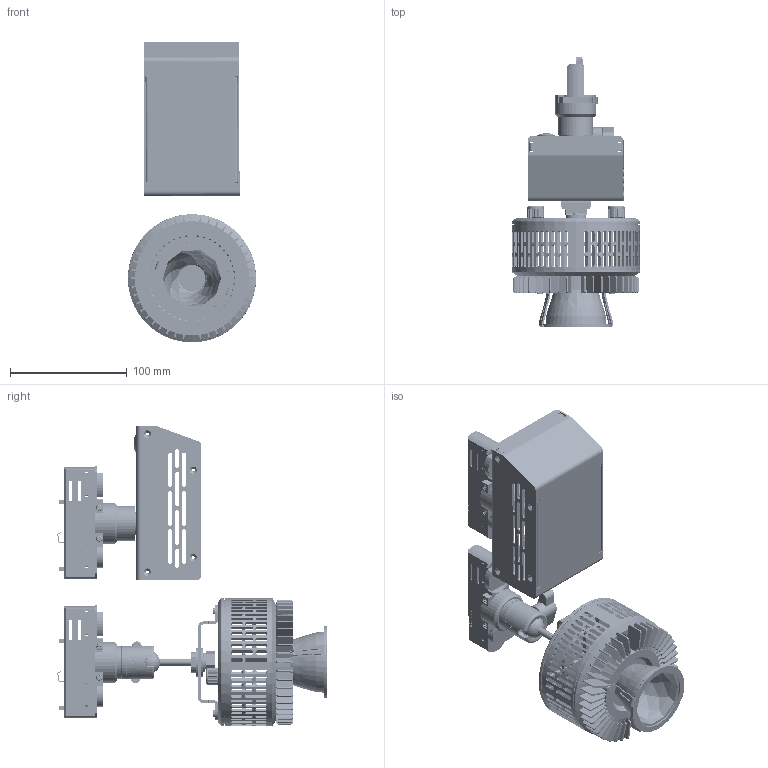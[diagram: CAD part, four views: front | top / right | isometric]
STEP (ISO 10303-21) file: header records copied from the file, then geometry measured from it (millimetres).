
FILE_DESCRIPTION (( 'STEP AP214' ), '1' );
FILE_NAME ('W360N-TEX-PS.STEP', '2024-01-31T00:52:01', ( '' ), ( '' ), 'SwSTEP 2.0', 'SolidWorks 2022', '' );
FILE_SCHEMA (( 'AUTOMOTIVE_DESIGN' ));
Length unit declared in the file: millimetre
Products named in the file (38): 5020757-002_A2_VR Washer, Kessil A360 Aquarium Light___; 5010176-XXX_A2_Assembly BOM, Kessil W360_35D-TSG; 5020897-2010216520_ _Helical Spring Washer Customized___; 5022398-XXX_A1_Plug for W Series, 19x10x9.4mm_For W360; 62282-5014005_ _Standard Types of Metric Set Screws, M4xL5, Black___; 5022014-XYZ_A2_EUTRAC Multi Adapter_Finissh_2(No Locked); 5021926-XXX_A2_KNOB, 18T, OD=14.9, ID=6, L=10MM_C1; 62432-11100100140040_ _Hex Nuts Customized, M10 P1.0 S14 T4 W-Zinc___; 5022445-XXX_A1_DC Plug for W Series, D=12mm_-002(Black); 5022452-003_A3_Reflector Sink Holder, D108x14.35(H)mm (-004 is White)_-003(Black); 5022708-XXX_A2_Ball Joint Axis, L=65.8mm___; 5120522-XXX_A3_Assembly BOM, W360&W500 Light Mounting Type_For W360_TSG; 62280-2163006_ _SCREW, FLAT HEAD TORX W-THD LOCK, SUS-304, BLACK, M3.0 x L6.0mm___; 5022431-XXX_A1_Ball Joint Part A, L=23.7mm___; W360N-TEX-PS; 5020757-001_A1_VR Nut, Kessil A360 Aquarium Light___; 5120533-XXX_A3_Housing, OD=110, ID=105, T=47.5mm, For Reflector___; 5022453-XXX_A1_35D Sink Holder B, 71.2x62.2x31.1(H)mm___; 5022534-XXX_A1_150W Power Box Cover, 132.5x79x54.5(H)mm, TG&TJ&CLP&TEX-PS Type_PS; 5022484-XXX_A1_Retaining Collar, M10xL10 P1.0, D30.0x31.1mm___; 5022693-XXX_A1_Bracket, 98.85x25x17.5, T=2.5mm___; 5120532-XXX_A1_Rear Panel, OD=110, T=8.3mm, W-Series_____; 5022405-XXX_A1_Wing Knob Screws, M6xL8.0mm_-001; 5060069-XXX_A2_W series Reflector-35, OD=62, H=45mm___; 62280-1363010_ _SCREW, M3x10mmL, PAN HEAD TORX WITH THREAD LOCK___; 5120526-XXX_A2_Assembly BOM, W360 Reflector Type_Reflector - 35D; 5021925_A1_PLATE, R=37.5, W=50, T=2MM___; 5022375-XXX_A4_150W Power Box Frame, 132.5x82x56(H)mm___; 5022516-00031_A1_Button Type Round Hole Plug for KANG YANG, Black___; 62280-5413010_ _SCREW, FLAT PAN HEAD, TORX W-THD LOCK, SUS-304, M3xL10mm___; 5020893-2010525020_ _Flat Washer, M10, ID10.5 OD25.0, T2 SUS 304___; 5021416_A1_Hex Nut, M10xP1.5, T8 SUS___; 5120521-XXX_A2_Assembly BOM, W360 Light Engine_Finish; 5020893-3211020005_ _Flat Washer Customized, Nylon Black, ID11mm OD20mm T0.5mm___; 5022399_A1_Fix Ball Joint Part for EUTRAC, D=28mm___; 5120511-XXX_A3_Assembly BOM, Power Box for W360_TOX-PS (2Circuits (9219-2S)); 5022430-XXX_A1_Ball Joint Part C (For TDE), L=18.9mm___; 62280-1343006_ _SCREW, PAN HEAD TROX W-THD LOCK, SUS-410, BLACK, M3xL6mm___
Assembly tree (47 placements, depth 4):
  W360N-TEX-PS
    5010176-XXX_A2_Assembly BOM, Kessil W360_35D-TSG
      5120521-XXX_A2_Assembly BOM, W360 Light Engine_Finish
        5120532-XXX_A1_Rear Panel, OD=110, T=8.3mm, W-Series_____
        5022445-XXX_A1_DC Plug for W Series, D=12mm_-002(Black)
        5022398-XXX_A1_Plug for W Series, 19x10x9.4mm_For W360
        62280-1363010_ _SCREW, M3x10mmL, PAN HEAD TORX WITH THREAD LOCK___  x2
        5020757-002_A2_VR Washer, Kessil A360 Aquarium Light___  x2
        5020757-001_A1_VR Nut, Kessil A360 Aquarium Light___  x2
        5021926-XXX_A2_KNOB, 18T, OD=14.9, ID=6, L=10MM_C1  x2
      5120526-XXX_A2_Assembly BOM, W360 Reflector Type_Reflector - 35D
        5120533-XXX_A3_Housing, OD=110, ID=105, T=47.5mm, For Reflector___
        5021925_A1_PLATE, R=37.5, W=50, T=2MM___
        62280-2163006_ _SCREW, FLAT HEAD TORX W-THD LOCK, SUS-304, BLACK, M3.0 x L6.0mm___  x2
        62280-1343006_ _SCREW, PAN HEAD TROX W-THD LOCK, SUS-410, BLACK, M3xL6mm___  x2
        5022452-003_A3_Reflector Sink Holder, D108x14.35(H)mm (-004 is White)_-003(Black)
        5022453-XXX_A1_35D Sink Holder B, 71.2x62.2x31.1(H)mm___
        5060069-XXX_A2_W series Reflector-35, OD=62, H=45mm___
        62280-5413010_ _SCREW, FLAT PAN HEAD, TORX W-THD LOCK, SUS-304, M3xL10mm___  x2
      5120522-XXX_A3_Assembly BOM, W360&W500 Light Mounting Type_For W360_TSG
        5022431-XXX_A1_Ball Joint Part A, L=23.7mm___
        5022430-XXX_A1_Ball Joint Part C (For TDE), L=18.9mm___
        5022708-XXX_A2_Ball Joint Axis, L=65.8mm___
        62282-5014005_ _Standard Types of Metric Set Screws, M4xL5, Black___
        5022405-XXX_A1_Wing Knob Screws, M6xL8.0mm_-001
        5022693-XXX_A1_Bracket, 98.85x25x17.5, T=2.5mm___
        5022014-XYZ_A2_EUTRAC Multi Adapter_Finissh_2(No Locked)
        5022399_A1_Fix Ball Joint Part for EUTRAC, D=28mm___
        5020893-2010525020_ _Flat Washer, M10, ID10.5 OD25.0, T2 SUS 304___  x2
        5020897-2010216520_ _Helical Spring Washer Customized___
        5021416_A1_Hex Nut, M10xP1.5, T8 SUS___
    5120511-XXX_A3_Assembly BOM, Power Box for W360_TOX-PS (2Circuits (9219-2S))
      5022375-XXX_A4_150W Power Box Frame, 132.5x82x56(H)mm___
      5022014-XYZ_A2_EUTRAC Multi Adapter_Finissh_2(No Locked)
      5022484-XXX_A1_Retaining Collar, M10xL10 P1.0, D30.0x31.1mm___
      5020893-3211020005_ _Flat Washer Customized, Nylon Black, ID11mm OD20mm T0.5mm___  x2
      5022516-00031_A1_Button Type Round Hole Plug for KANG YANG, Black___
      62432-11100100140040_ _Hex Nuts Customized, M10 P1.0 S14 T4 W-Zinc___
      5022534-XXX_A1_150W Power Box Cover, 132.5x79x54.5(H)mm, TG&TJ&CLP&TEX-PS Type_PS
Bounding box: 110 x 231.23 x 258.07 mm (x, y, z)
Volume: 333958.6 mm3; surface area: 317833.6 mm2
Topology: 83 solids, 83 shells, 5483 faces, 14996 edges, 9732 vertices
Faces by surface type: plane 2514, cylinder 1764, bspline 738, cone 269, torus 164, sphere 34
Entity records: 196522 total; most frequent: CARTESIAN_POINT 62974, ORIENTED_EDGE 24064, DIRECTION 19096, EDGE_CURVE 12032, VERTEX_POINT 7828, VECTOR 6606, LINE 6606, AXIS2_PLACEMENT_3D 6245
